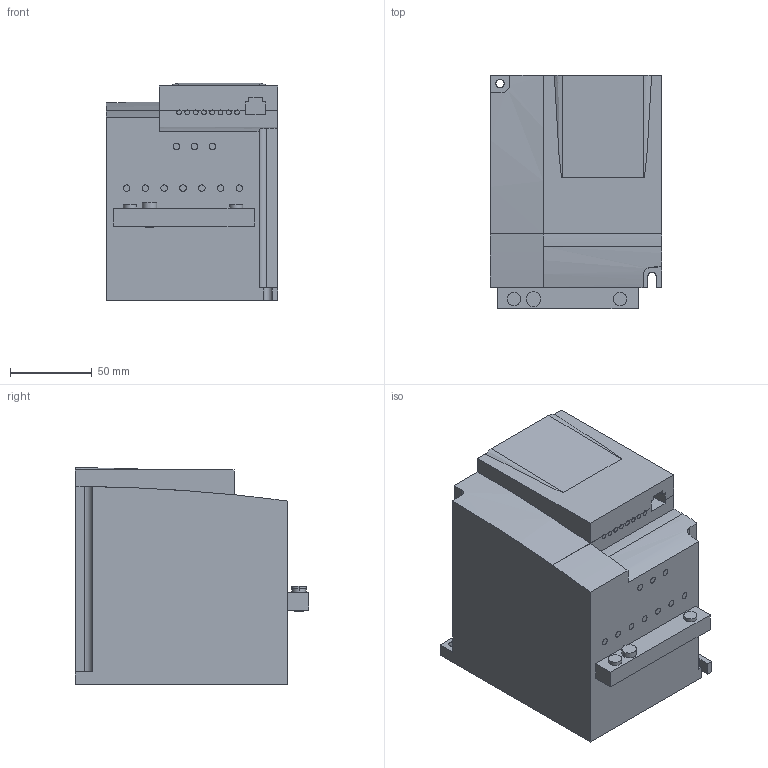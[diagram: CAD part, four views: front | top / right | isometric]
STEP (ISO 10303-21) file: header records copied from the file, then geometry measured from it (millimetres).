
FILE_DESCRIPTION(('STEP AP242'),'1');
FILE_NAME('drive_atv12hu15m3_ew.stp','2020-03-11T14:17:46',('TraceParts'),('TraceParts S.A.'),'Spatial InterOp 3D',' ',' ');
FILE_SCHEMA(('AP242_MANAGED_MODEL_BASED_3D_ENGINEERING_MIM_LF {1 0 10303 442 1 1 4}'));
Length unit declared in the file: millimetre
Products named in the file (1): drive_atv12hu15m3_ew
Bounding box: 105 x 143 x 132.87 mm (x, y, z)
Volume: 1660557.5 mm3; surface area: 89989.3 mm2
Topology: 1 solids, 1 shells, 113 faces, 284 edges, 189 vertices
Faces by surface type: plane 57, cylinder 54, cone 2
Entity records: 3917 total; most frequent: DIRECTION 633, CARTESIAN_POINT 629, ORIENTED_EDGE 568, EDGE_CURVE 284, AXIS2_PLACEMENT_3D 241, VERTEX_POINT 189, LINE 151, VECTOR 151
